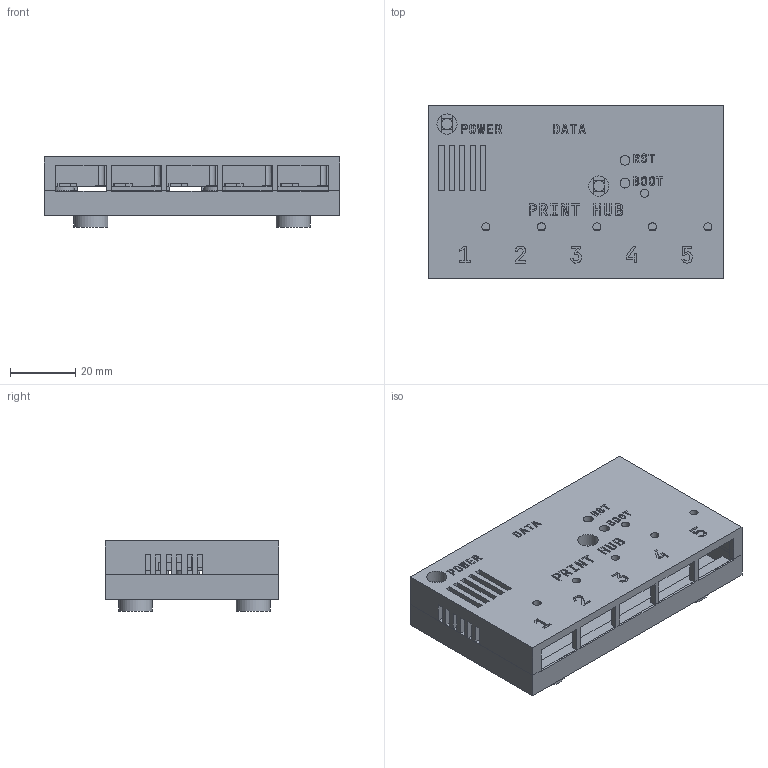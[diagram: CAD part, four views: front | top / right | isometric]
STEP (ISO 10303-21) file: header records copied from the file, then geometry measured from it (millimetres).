
FILE_DESCRIPTION(('Open CASCADE Model'),'2;1');
FILE_NAME('printhub-enclosure','2026-10-17T00:00:00',('Author'),( 'Open CASCADE'),'Open CASCADE STEP processor 8.0','build123d', 'Unknown');
FILE_SCHEMA(('AUTOMOTIVE_DESIGN { 1 0 10303 214 1 1 1 1 }'));
Length unit declared in the file: millimetre
Products named in the file (7): printhub-enclosure; printhub-base; printhub-lid; printhub-foot-1; printhub-foot-2; printhub-foot-3; printhub-foot-4
Assembly tree (6 placements, depth 2):
  printhub-enclosure
    printhub-base
    printhub-lid
    printhub-foot-1
    printhub-foot-2
    printhub-foot-3
    printhub-foot-4
Bounding box: 90.6 x 53.2 x 21.5 mm (x, y, z)
Volume: 55014.5 mm3; surface area: 31035.3 mm2
Topology: 6 solids, 6 shells, 1305 faces, 3698 edges, 2460 vertices
Faces by surface type: plane 1279, cylinder 26
Full cylindrical faces by diameter (mm): 2.5 x6, 3 x2, 3.4 x2, 4 x2, 6.2 x2, 6.8 x2, 7 x2, 10.4 x4, 10.6 x4
Entity records: 86704 total; most frequent: CARTESIAN_POINT 17868, DIRECTION 10796, LINE 7932, VECTOR 7932, ORIENTED_EDGE 7396, PCURVE 7396, DEFINITIONAL_REPRESENTATION 7396, EDGE_CURVE 3698
